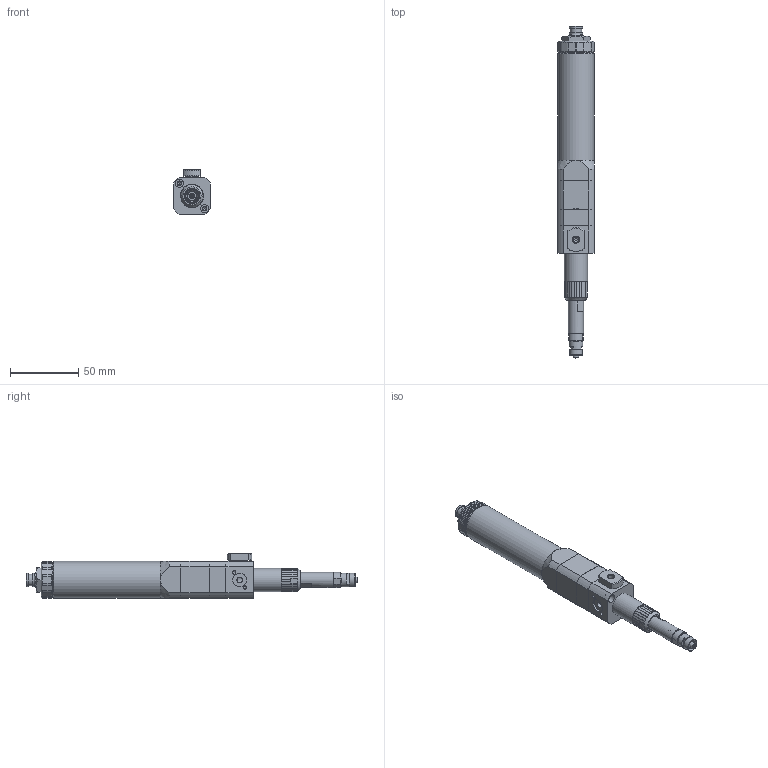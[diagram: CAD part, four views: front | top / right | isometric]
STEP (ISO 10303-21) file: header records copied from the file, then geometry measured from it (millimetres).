
FILE_DESCRIPTION (( 'STEP AP214' ), '1' );
FILE_NAME ('PCPM-015-SY.STEP', '2024-10-11T10:28:18', ( '' ), ( '' ), 'SwSTEP 2.0', 'SolidWorks 2024', '' );
FILE_SCHEMA (( 'AUTOMOTIVE_DESIGN' ));
Length unit declared in the file: millimetre
Products named in the file (1): PCPM-015-SY
Bounding box: 27 x 242.4 x 32.8 mm (x, y, z)
Volume: 51602.3 mm3; surface area: 50239.6 mm2
Topology: 25 solids, 25 shells, 716 faces, 1847 edges, 1204 vertices
Faces by surface type: plane 255, cylinder 243, cone 201, bspline 17
Full cylindrical faces by diameter (mm): 0.4 x1, 1 x5, 2 x1, 2.5 x9, 2.7 x3, 3 x2, 3.5 x10, 3.9 x1, 4 x2, 4.2 x1, 4.8 x1, 5.2 x1, 5.8 x4, 6 x5, 6.6 x2, 6.8 x1, 7 x1, 7.2 x1, 8 x4, 8.1 x1, 8.2 x1, 8.5 x2, 9 x7, 9.5 x2, 9.6 x2, 9.7 x1, 10 x2, 10.1 x1, 10.5 x1, 10.8 x2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
Entity records: 25138 total; most frequent: CARTESIAN_POINT 9884, DIRECTION 3087, ORIENTED_EDGE 2728, EDGE_CURVE 1364, AXIS2_PLACEMENT_3D 1321, EDGE_LOOP 1104, VERTEX_POINT 1034, FACE_OUTER_BOUND 847
